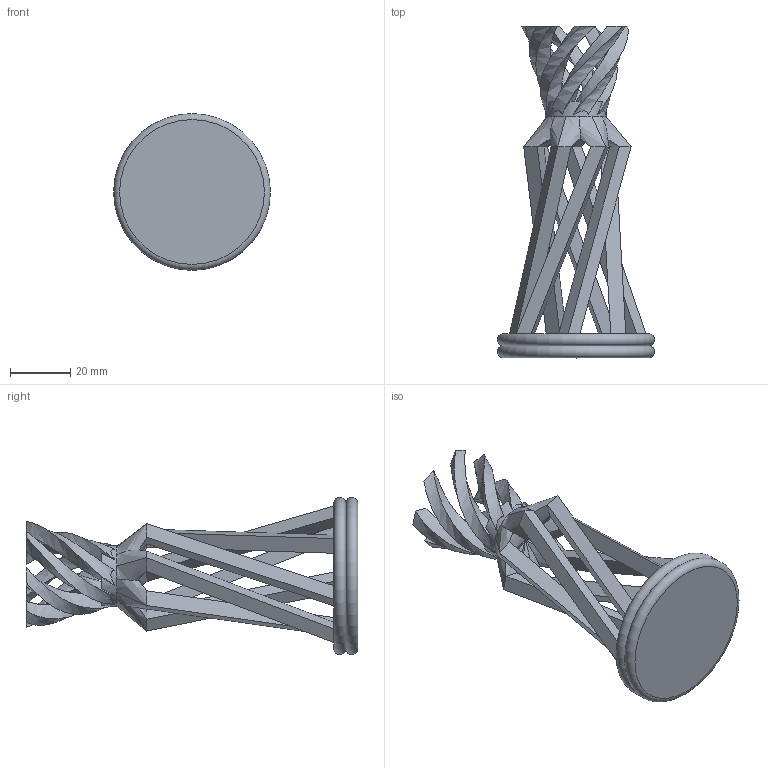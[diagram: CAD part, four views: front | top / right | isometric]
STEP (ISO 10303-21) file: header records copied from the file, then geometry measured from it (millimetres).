
FILE_DESCRIPTION(/* description */ (''),/* implementation_level */ '2;1');
FILE_NAME(/* name */ 'E:\Chess\Queen.stp',/* time_stamp */ '2021-01-30T10:27:17-05:00',/* author */ ('Owner'),/* organization */ (''),/* preprocessor_version */ 'ST-DEVELOPER v18',/* originating_system */ 'Autodesk Inventor 2020',/* authorisation */ '');
FILE_SCHEMA (('AUTOMOTIVE_DESIGN { 1 0 10303 214 3 1 1 }'));
Length unit declared in the file: millimetre
Products named in the file (1): Queen
Bounding box: 52 x 110 x 52 mm (x, y, z)
Volume: 37613 mm3; surface area: 20763.9 mm2
Topology: 1 solids, 1 shells, 97 faces, 262 edges, 168 vertices
Faces by surface type: bspline 56, plane 38, torus 2, cylinder 1
Full cylindrical faces by diameter (mm): 20 x1
Entity records: 4682 total; most frequent: CARTESIAN_POINT 2530, ORIENTED_EDGE 510, DIRECTION 285, EDGE_CURVE 255, VERTEX_POINT 155, LINE 141, VECTOR 141, EDGE_LOOP 104
